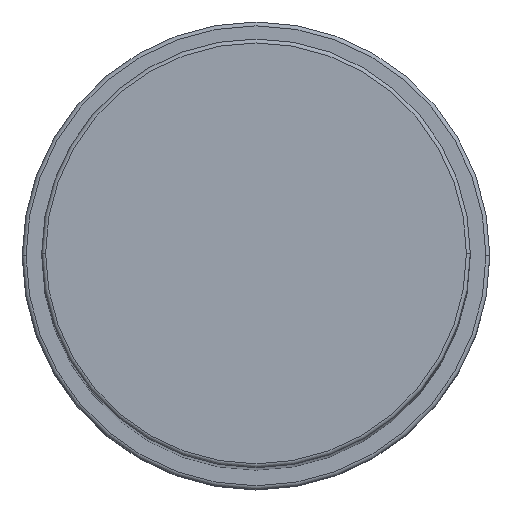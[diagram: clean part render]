
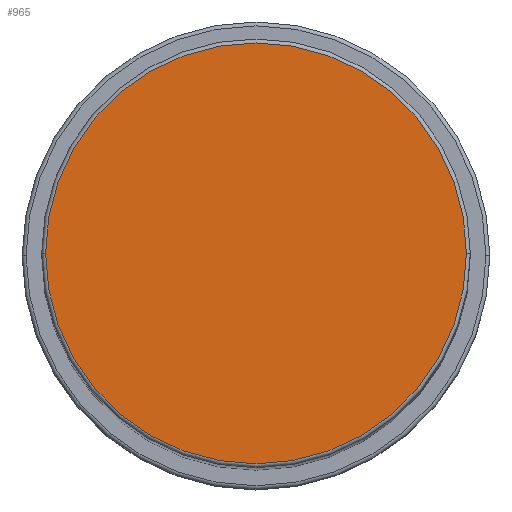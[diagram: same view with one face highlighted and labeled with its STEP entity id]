
A CAD part, top view. The second image highlights one B-rep face of the part: STEP entity #965.
In plain terms, the highlighted planar face has unit normal (0, 0, 1).
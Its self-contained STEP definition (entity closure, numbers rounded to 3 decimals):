
#294 = FACE_OUTER_BOUND ( 'NONE', #4032, .T. ) ;
#671 = DIRECTION ( 'NONE',  ( 0., 0., 1. ) ) ;
#825 = CARTESIAN_POINT ( 'NONE',  ( 27., 0., 193. ) ) ;
#860 = EDGE_CURVE ( 'NONE', #3996, #1762, #3955, .T. ) ;
#887 = ORIENTED_EDGE ( 'NONE', *, *, #1295, .T. ) ;
#965 = ADVANCED_FACE ( 'NONE', ( #294 ), #3020, .T. ) ;
#1107 = CARTESIAN_POINT ( 'NONE',  ( 0., 0., 193. ) ) ;
#1295 = EDGE_CURVE ( 'NONE', #1762, #3996, #4939, .T. ) ;
#1326 = AXIS2_PLACEMENT_3D ( 'NONE', #1107, #4091, #3773 ) ;
#1427 = ORIENTED_EDGE ( 'NONE', *, *, #860, .T. ) ;
#1450 = DIRECTION ( 'NONE',  ( 0., 0., 1. ) ) ;
#1511 = AXIS2_PLACEMENT_3D ( 'NONE', #4904, #1450, #4495 ) ;
#1762 = VERTEX_POINT ( 'NONE', #3745 ) ;
#2960 = DIRECTION ( 'NONE',  ( 1., 0., 0. ) ) ;
#3020 = PLANE ( 'NONE',  #1326 ) ;
#3388 = CARTESIAN_POINT ( 'NONE',  ( 0., 0., 193. ) ) ;
#3745 = CARTESIAN_POINT ( 'NONE',  ( -27., 0., 193. ) ) ;
#3773 = DIRECTION ( 'NONE',  ( 1., 0., 0. ) ) ;
#3955 = CIRCLE ( 'NONE', #1511, 27. ) ;
#3996 = VERTEX_POINT ( 'NONE', #825 ) ;
#4032 = EDGE_LOOP ( 'NONE', ( #1427, #887 ) ) ;
#4091 = DIRECTION ( 'NONE',  ( 0., 0., 1. ) ) ;
#4495 = DIRECTION ( 'NONE',  ( 1., 0., 0. ) ) ;
#4847 = AXIS2_PLACEMENT_3D ( 'NONE', #3388, #671, #2960 ) ;
#4904 = CARTESIAN_POINT ( 'NONE',  ( 0., 0., 193. ) ) ;
#4939 = CIRCLE ( 'NONE', #4847, 27. ) ;
